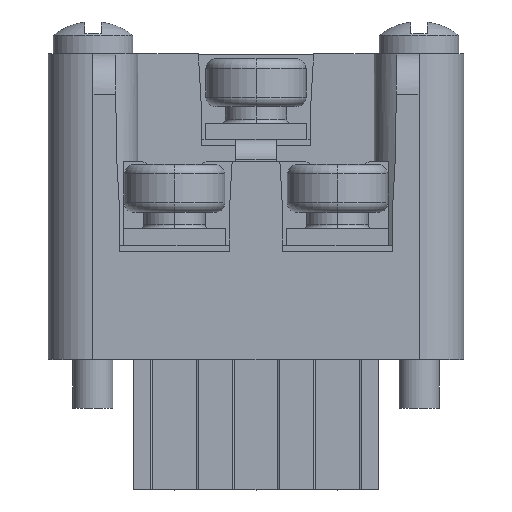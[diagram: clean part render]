
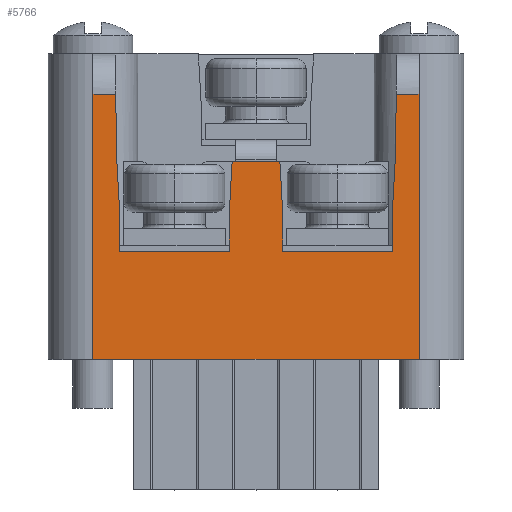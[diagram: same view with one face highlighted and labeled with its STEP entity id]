
A CAD part, top view. The second image highlights one B-rep face of the part: STEP entity #5766.
In plain terms, the highlighted planar face has unit normal (0, 0, 1).
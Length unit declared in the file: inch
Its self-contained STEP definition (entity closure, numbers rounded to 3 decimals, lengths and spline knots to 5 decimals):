
#14=DIRECTION('',(0.,-1.,0.));
#15=VECTOR('',#14,0.65);
#16=CARTESIAN_POINT('',(-0.4,0.65,0.37));
#17=LINE('',#16,#15);
#58=DIRECTION('',(1.,0.,0.));
#59=VECTOR('',#58,0.8);
#60=CARTESIAN_POINT('',(-0.4,0.,0.37));
#61=LINE('',#60,#59);
#203=DIRECTION('',(0.,-1.,0.));
#204=VECTOR('',#203,0.65);
#205=CARTESIAN_POINT('',(0.4,0.65,0.37));
#206=LINE('',#205,#204);
#1168=CARTESIAN_POINT('',(-0.34425,0.65,0.37));
#1182=CARTESIAN_POINT('',(0.34425,0.65,0.37));
#1385=DIRECTION('',(1.,0.,0.));
#1386=VECTOR('',#1385,0.26994);
#1387=CARTESIAN_POINT('',(0.06503,0.265,0.37));
#1388=LINE('',#1387,#1386);
#1389=DIRECTION('',(0.,1.,0.));
#1390=VECTOR('',#1389,0.105);
#1391=CARTESIAN_POINT('',(0.33497,0.265,0.37));
#1392=LINE('',#1391,#1390);
#1393=DIRECTION('',(0.056,0.998,0.));
#1394=VECTOR('',#1393,0.11522);
#1395=CARTESIAN_POINT('',(0.33497,0.37,0.37));
#1396=LINE('',#1395,#1394);
#1397=DIRECTION('',(-0.017,-1.,0.));
#1398=VECTOR('',#1397,0.16498);
#1399=CARTESIAN_POINT('',(0.34425,0.65,0.37));
#1400=LINE('',#1399,#1398);
#1401=DIRECTION('',(1.,0.,0.));
#1402=VECTOR('',#1401,0.05575);
#1403=CARTESIAN_POINT('',(0.34425,0.65,0.37));
#1404=LINE('',#1403,#1402);
#1405=DIRECTION('',(1.,0.,0.));
#1406=VECTOR('',#1405,0.05575);
#1407=CARTESIAN_POINT('',(-0.4,0.65,0.37));
#1408=LINE('',#1407,#1406);
#1409=DIRECTION('',(0.017,-1.,0.));
#1410=VECTOR('',#1409,0.16499);
#1411=CARTESIAN_POINT('',(-0.34425,0.65,0.37));
#1412=LINE('',#1411,#1410);
#1413=DIRECTION('',(0.056,-0.998,0.));
#1414=VECTOR('',#1413,0.11522);
#1415=CARTESIAN_POINT('',(-0.34144,0.48504,0.37));
#1416=LINE('',#1415,#1414);
#1417=DIRECTION('',(0.,-1.,0.));
#1418=VECTOR('',#1417,0.105);
#1419=CARTESIAN_POINT('',(-0.33497,0.37,0.37));
#1420=LINE('',#1419,#1418);
#1421=DIRECTION('',(1.,0.,0.));
#1422=VECTOR('',#1421,0.26994);
#1423=CARTESIAN_POINT('',(-0.33497,0.265,0.37));
#1424=LINE('',#1423,#1422);
#1425=DIRECTION('',(0.,1.,0.));
#1426=VECTOR('',#1425,0.105);
#1427=CARTESIAN_POINT('',(-0.06503,0.265,0.37));
#1428=LINE('',#1427,#1426);
#1429=DIRECTION('',(0.057,0.998,0.));
#1430=VECTOR('',#1429,0.11523);
#1431=CARTESIAN_POINT('',(-0.06503,0.37,0.37));
#1432=LINE('',#1431,#1430);
#1433=DIRECTION('',(1.,0.,0.));
#1434=VECTOR('',#1433,0.117);
#1435=CARTESIAN_POINT('',(-0.0585,0.48504,0.37));
#1436=LINE('',#1435,#1434);
#1437=DIRECTION('',(0.057,-0.998,0.));
#1438=VECTOR('',#1437,0.11523);
#1439=CARTESIAN_POINT('',(0.0585,0.48504,0.37));
#1440=LINE('',#1439,#1438);
#1441=DIRECTION('',(0.,-1.,0.));
#1442=VECTOR('',#1441,0.105);
#1443=CARTESIAN_POINT('',(0.06503,0.37,0.37));
#1444=LINE('',#1443,#1442);
#3098=CARTESIAN_POINT('',(-0.4,0.65,0.37));
#3100=VERTEX_POINT('',#3098);
#3101=CARTESIAN_POINT('',(-0.4,0.,0.37));
#3102=VERTEX_POINT('',#3101);
#3108=CARTESIAN_POINT('',(0.4,0.65,0.37));
#3110=VERTEX_POINT('',#3108);
#3111=CARTESIAN_POINT('',(0.4,0.,0.37));
#3112=VERTEX_POINT('',#3111);
#3114=VERTEX_POINT('',#1168);
#3116=VERTEX_POINT('',#1182);
#3121=CARTESIAN_POINT('',(-0.33497,0.265,0.37));
#3122=CARTESIAN_POINT('',(-0.06503,0.265,0.37));
#3123=VERTEX_POINT('',#3121);
#3124=VERTEX_POINT('',#3122);
#3125=CARTESIAN_POINT('',(-0.06503,0.37,0.37));
#3126=VERTEX_POINT('',#3125);
#3127=CARTESIAN_POINT('',(-0.0585,0.48504,0.37));
#3128=VERTEX_POINT('',#3127);
#3129=CARTESIAN_POINT('',(-0.34144,0.48504,0.37));
#3130=CARTESIAN_POINT('',(-0.33497,0.37,0.37));
#3131=VERTEX_POINT('',#3129);
#3132=VERTEX_POINT('',#3130);
#3677=CARTESIAN_POINT('',(0.06503,0.37,0.37));
#3678=VERTEX_POINT('',#3677);
#3813=CARTESIAN_POINT('',(0.06503,0.265,0.37));
#3814=CARTESIAN_POINT('',(0.33497,0.265,0.37));
#3815=VERTEX_POINT('',#3813);
#3816=VERTEX_POINT('',#3814);
#3817=CARTESIAN_POINT('',(0.33497,0.37,0.37));
#3818=VERTEX_POINT('',#3817);
#3819=CARTESIAN_POINT('',(0.34145,0.48504,0.37));
#3820=VERTEX_POINT('',#3819);
#3821=CARTESIAN_POINT('',(0.0585,0.48504,0.37));
#3822=VERTEX_POINT('',#3821);
#5735=CARTESIAN_POINT('',(-0.4,0.65,0.37));
#5736=DIRECTION('',(0.,0.,1.));
#5737=DIRECTION('',(0.,-1.,0.));
#5738=AXIS2_PLACEMENT_3D('',#5735,#5736,#5737);
#5739=PLANE('',#5738);
#5741=ORIENTED_EDGE('',*,*,#5740,.T.);
#5743=ORIENTED_EDGE('',*,*,#5742,.T.);
#5745=ORIENTED_EDGE('',*,*,#5744,.T.);
#5746=ORIENTED_EDGE('',*,*,#5406,.F.);
#5747=ORIENTED_EDGE('',*,*,#5435,.T.);
#5748=ORIENTED_EDGE('',*,*,#4152,.T.);
#5749=ORIENTED_EDGE('',*,*,#4069,.F.);
#5750=ORIENTED_EDGE('',*,*,#3988,.F.);
#5751=ORIENTED_EDGE('',*,*,#5420,.T.);
#5752=ORIENTED_EDGE('',*,*,#5448,.T.);
#5753=ORIENTED_EDGE('',*,*,#5463,.T.);
#5754=ORIENTED_EDGE('',*,*,#5481,.T.);
#5755=ORIENTED_EDGE('',*,*,#5704,.T.);
#5756=ORIENTED_EDGE('',*,*,#5630,.T.);
#5758=ORIENTED_EDGE('',*,*,#5757,.T.);
#5759=ORIENTED_EDGE('',*,*,#4236,.T.);
#5761=ORIENTED_EDGE('',*,*,#5760,.T.);
#5763=ORIENTED_EDGE('',*,*,#5762,.T.);
#5764=EDGE_LOOP('',(#5741,#5743,#5745,#5746,#5747,#5748,#5749,#5750,#5751,#5752,
#5753,#5754,#5755,#5756,#5758,#5759,#5761,#5763));
#5765=FACE_OUTER_BOUND('',#5764,.F.);
#5766=ADVANCED_FACE('',(#5765),#5739,.T.);
#3988=EDGE_CURVE('',#3100,#3102,#17,.T.);
#4069=EDGE_CURVE('',#3102,#3112,#61,.T.);
#4152=EDGE_CURVE('',#3110,#3112,#206,.T.);
#4236=EDGE_CURVE('',#3128,#3822,#1436,.T.);
#5406=EDGE_CURVE('',#3116,#3820,#1400,.T.);
#5420=EDGE_CURVE('',#3100,#3114,#1408,.T.);
#5435=EDGE_CURVE('',#3116,#3110,#1404,.T.);
#5448=EDGE_CURVE('',#3114,#3131,#1412,.T.);
#5463=EDGE_CURVE('',#3131,#3132,#1416,.T.);
#5481=EDGE_CURVE('',#3132,#3123,#1420,.T.);
#5630=EDGE_CURVE('',#3124,#3126,#1428,.T.);
#5704=EDGE_CURVE('',#3123,#3124,#1424,.T.);
#5740=EDGE_CURVE('',#3815,#3816,#1388,.T.);
#5742=EDGE_CURVE('',#3816,#3818,#1392,.T.);
#5744=EDGE_CURVE('',#3818,#3820,#1396,.T.);
#5757=EDGE_CURVE('',#3126,#3128,#1432,.T.);
#5760=EDGE_CURVE('',#3822,#3678,#1440,.T.);
#5762=EDGE_CURVE('',#3678,#3815,#1444,.T.);
